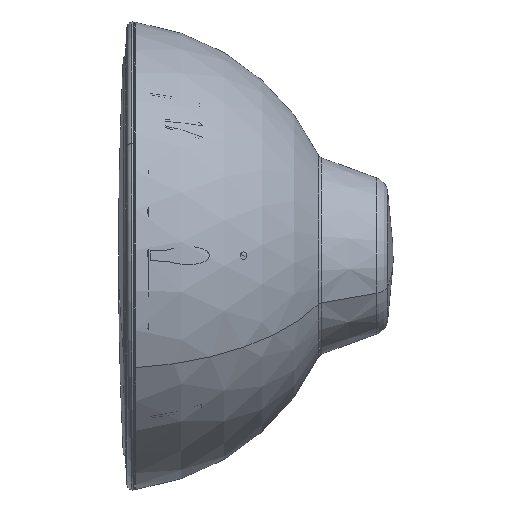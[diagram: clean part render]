
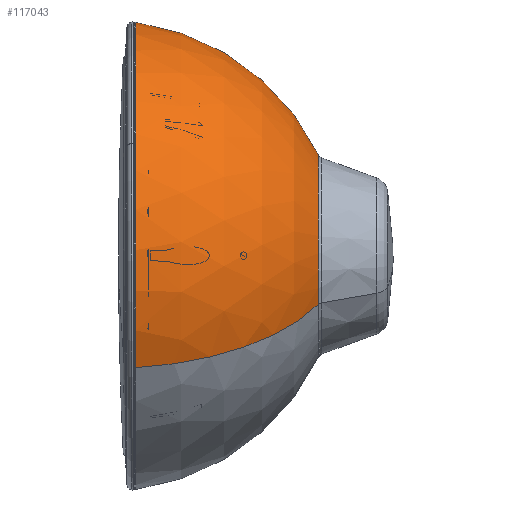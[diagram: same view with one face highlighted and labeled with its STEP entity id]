
A CAD part, top view. The second image highlights one B-rep face of the part: STEP entity #117043.
In plain terms, the highlighted spherical face has radius 112 mm.
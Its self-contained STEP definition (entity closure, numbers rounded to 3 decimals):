
#117003=AXIS2_PLACEMENT_3D('Sphere Axis2P3D',#117000,#117001,#117002) ;
#117007=AXIS2_PLACEMENT_3D('Circle Axis2P3D',#117005,#117006,$) ;
#117016=AXIS2_PLACEMENT_3D('Circle Axis2P3D',#117014,#117015,$) ;
#117023=AXIS2_PLACEMENT_3D('Circle Axis2P3D',#117021,#117022,$) ;
#117030=AXIS2_PLACEMENT_3D('Circle Axis2P3D',#117028,#117029,$) ;
#113164=CARTESIAN_POINT('Vertex',(22.71,67.997,-78.663)) ;
#113168=CARTESIAN_POINT('Control Point',(22.71,67.997,-78.663)) ;
#113169=CARTESIAN_POINT('Control Point',(23.885,68.864,-77.291)) ;
#113170=CARTESIAN_POINT('Control Point',(25.35,69.432,-75.962)) ;
#113171=CARTESIAN_POINT('Control Point',(27.046,69.645,-74.751)) ;
#113172=CARTESIAN_POINT('Control Point',(30.689,69.298,-72.746)) ;
#113173=CARTESIAN_POINT('Control Point',(34.359,67.544,-71.765)) ;
#113174=CARTESIAN_POINT('Control Point',(36.07,66.351,-71.586)) ;
#113175=CARTESIAN_POINT('Control Point',(39.205,63.364,-71.849)) ;
#113176=CARTESIAN_POINT('Control Point',(41.037,59.885,-73.286)) ;
#113177=CARTESIAN_POINT('Control Point',(41.582,58.038,-74.315)) ;
#113178=CARTESIAN_POINT('Control Point',(41.798,55.163,-76.308)) ;
#113179=CARTESIAN_POINT('Control Point',(40.913,52.729,-78.658)) ;
#113180=CARTESIAN_POINT('Control Point',(40.407,51.876,-79.604)) ;
#113181=CARTESIAN_POINT('Control Point',(39.738,51.135,-80.567)) ;
#113182=CARTESIAN_POINT('Control Point',(38.921,50.532,-81.521)) ;
#113183=CARTESIAN_POINT('Vertex',(38.921,50.532,-81.521)) ;
#113199=CARTESIAN_POINT('Control Point',(38.921,50.532,-81.521)) ;
#113200=CARTESIAN_POINT('Control Point',(37.893,49.775,-82.72)) ;
#113201=CARTESIAN_POINT('Control Point',(36.631,49.235,-83.902)) ;
#113202=CARTESIAN_POINT('Control Point',(35.16,48.967,-85.014)) ;
#113203=CARTESIAN_POINT('Control Point',(31.833,49.053,-87.017)) ;
#113204=CARTESIAN_POINT('Control Point',(28.355,50.398,-88.181)) ;
#113205=CARTESIAN_POINT('Control Point',(26.622,51.416,-88.503)) ;
#113206=CARTESIAN_POINT('Control Point',(22.036,55.129,-88.603)) ;
#113207=CARTESIAN_POINT('Control Point',(19.547,60.249,-86.36)) ;
#113208=CARTESIAN_POINT('Control Point',(19.299,63.652,-83.996)) ;
#113209=CARTESIAN_POINT('Control Point',(20.488,66.359,-81.254)) ;
#113210=CARTESIAN_POINT('Control Point',(22.71,67.997,-78.663)) ;
#117000=CARTESIAN_POINT('Axis2P3D Location',(-18.914,0.,0.)) ;
#117005=CARTESIAN_POINT('Axis2P3D Location',(-18.914,0.,0.)) ;
#117009=CARTESIAN_POINT('Vertex',(-4.414,-53.244,97.462)) ;
#117011=CARTESIAN_POINT('Vertex',(82.214,-23.078,42.243)) ;
#117014=CARTESIAN_POINT('Axis2P3D Location',(82.214,0.,0.)) ;
#117018=CARTESIAN_POINT('Vertex',(82.214,23.078,-42.243)) ;
#117021=CARTESIAN_POINT('Axis2P3D Location',(-18.914,0.,0.)) ;
#117025=CARTESIAN_POINT('Vertex',(-4.414,53.244,-97.462)) ;
#117028=CARTESIAN_POINT('Axis2P3D Location',(-4.414,0.,0.)) ;
#117001=DIRECTION('Axis2P3D Direction',(1.,0.,0.)) ;
#117002=DIRECTION('Axis2P3D XDirection',(0.,-0.479,0.878)) ;
#117006=DIRECTION('Axis2P3D Direction',(-0.,0.878,0.479)) ;
#117015=DIRECTION('Axis2P3D Direction',(1.,0.,0.)) ;
#117022=DIRECTION('Axis2P3D Direction',(0.,-0.878,-0.479)) ;
#117029=DIRECTION('Axis2P3D Direction',(1.,0.,0.)) ;
#117034=ORIENTED_EDGE('',*,*,#117013,.T.) ;
#117035=ORIENTED_EDGE('',*,*,#117020,.T.) ;
#117036=ORIENTED_EDGE('',*,*,#117027,.F.) ;
#117037=ORIENTED_EDGE('',*,*,#117032,.T.) ;
#117040=ORIENTED_EDGE('',*,*,#113211,.F.) ;
#117041=ORIENTED_EDGE('',*,*,#113185,.F.) ;
#117042=FACE_BOUND('',#117039,.T.) ;
#117043=ADVANCED_FACE('RG_HOUSING_LUMINATOR_147.940-00',(#117038,#117042),#117004,.T.) ;
#113167=B_SPLINE_CURVE_WITH_KNOTS('',5,(#113168,#113169,#113170,#113171,#113172,#113173,#113174,#113175,#113176,#113177,#113178,#113179,#113180,#113181,#113182),.UNSPECIFIED.,.F.,.U.,(6,3,3,3,6),(0.,14.506,28.905,45.292,55.606),.UNSPECIFIED.) ;
#113198=B_SPLINE_CURVE_WITH_KNOTS('',5,(#113199,#113200,#113201,#113202,#113203,#113204,#113205,#113206,#113207,#113208,#113209,#113210),.UNSPECIFIED.,.F.,.U.,(6,3,3,6),(0.,12.969,27.02,54.426),.UNSPECIFIED.) ;
#117008=CIRCLE('generated circle',#117007,112.) ;
#117017=CIRCLE('generated circle',#117016,48.136) ;
#117024=CIRCLE('generated circle',#117023,112.) ;
#117031=CIRCLE('generated circle',#117030,111.057) ;
#113185=EDGE_CURVE('',#113165,#113184,#113167,.T.) ;
#113211=EDGE_CURVE('',#113184,#113165,#113198,.T.) ;
#117013=EDGE_CURVE('',#117010,#117012,#117008,.T.) ;
#117020=EDGE_CURVE('',#117012,#117019,#117017,.F.) ;
#117027=EDGE_CURVE('',#117026,#117019,#117024,.T.) ;
#117032=EDGE_CURVE('',#117026,#117010,#117031,.T.) ;
#117033=EDGE_LOOP('',(#117034,#117035,#117036,#117037)) ;
#117039=EDGE_LOOP('',(#117040,#117041)) ;
#117038=FACE_OUTER_BOUND('',#117033,.T.) ;
#117004=SPHERICAL_SURFACE('',#117003,112.) ;
#113165=VERTEX_POINT('',#113164) ;
#113184=VERTEX_POINT('',#113183) ;
#117010=VERTEX_POINT('',#117009) ;
#117012=VERTEX_POINT('',#117011) ;
#117019=VERTEX_POINT('',#117018) ;
#117026=VERTEX_POINT('',#117025) ;
